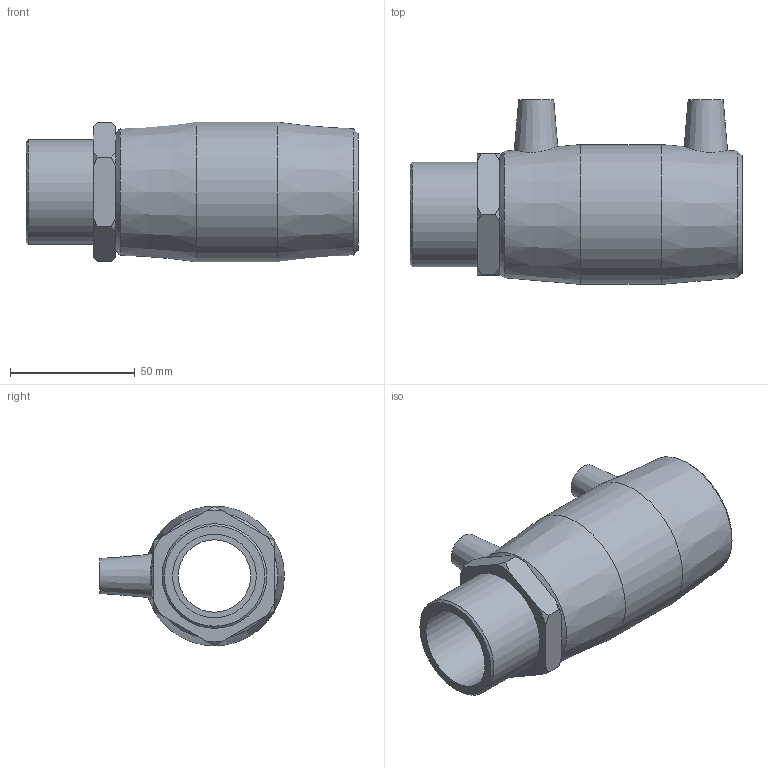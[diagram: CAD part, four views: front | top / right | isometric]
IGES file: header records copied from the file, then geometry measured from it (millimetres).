
Global section: file name: 492104040013.ipt; native system: Autodesk Inventor 2015; preprocessor: unknown; author: KIM; date: 20200202.122313; units: millimetre
Bounding box: 133 x 74 x 56 mm (x, y, z)
Volume: 160283.8 mm3; surface area: 44635.6 mm2
Topology: 1 solids, 2 shells, 54 faces, 129 edges, 88 vertices
Faces by surface type: plane 21, cone 19, revolution 8, cylinder 6
Full cylindrical faces by diameter (mm): 4 x2, 40 x2, 41.91 x1, 56 x1
